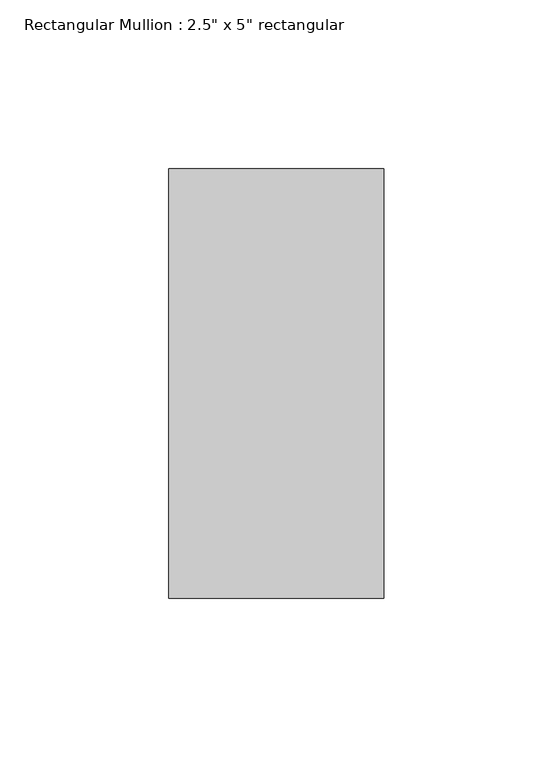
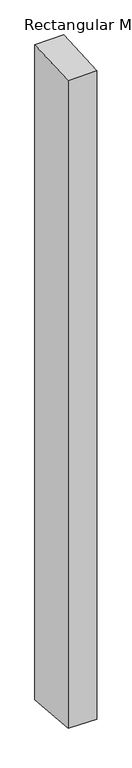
"""IFC4 building model written with IfcOpenShell, lengths in millimetres: member geometry."""

from ifc_helpers import new_model, si_unit, origin, place, context, project, spatial, faceted_brep, source, transform, mapped, element, save


def member_84afa52a(model_context):
    return source(origin(), model_context, "Body", "Brep", [
        faceted_brep([(-63.5, 63.5, 2.8447806), (0.0, 63.5, 3.6519872), (0.0, 63.5, -1529.1849902), (-63.5, 63.5, -1528.0389406), (-63.5, -63.5, -4.4591938), (-63.5, -63.5, -1517.6689603), (0.0, -63.5, -3.6519872), (0.0, -63.5, -1518.8150098)], [[[0, 1, 2, 3]], [[4, 0, 3, 5]], [[6, 4, 5, 7]], [[1, 6, 7, 2]], [[1, 0, 4, 6]], [[2, 7, 5, 3]]]),
    ])


if __name__ == "__main__":
    model = new_model("IFC4")
    model_context = context("Model", 3, world=origin())
    ifc_project = project(units=[si_unit("LENGTHUNIT", "METRE", prefix="MILLI")], contexts=[model_context])
    site = spatial("IfcSite", under=ifc_project)
    building = spatial("IfcBuilding", under=site)
    placement = place(None, origin())
    member_shape = member_84afa52a(model_context)
    element("IfcMember", 1, ObjectType="Rectangular Mullion : 2.5\" x 5\" rectangular", at=placement, inside=building, context=model_context, shape_type="MappedRepresentation", body=[
        mapped(member_shape, transform((0.0, 0.0, 0.0), x_axis=(1.0, 0.0, 0.0), y_axis=(0.0, 1.0, 0.0), z_axis=(0.0, 0.0, 1.0))),
    ])
    save(model, "model.ifc")
